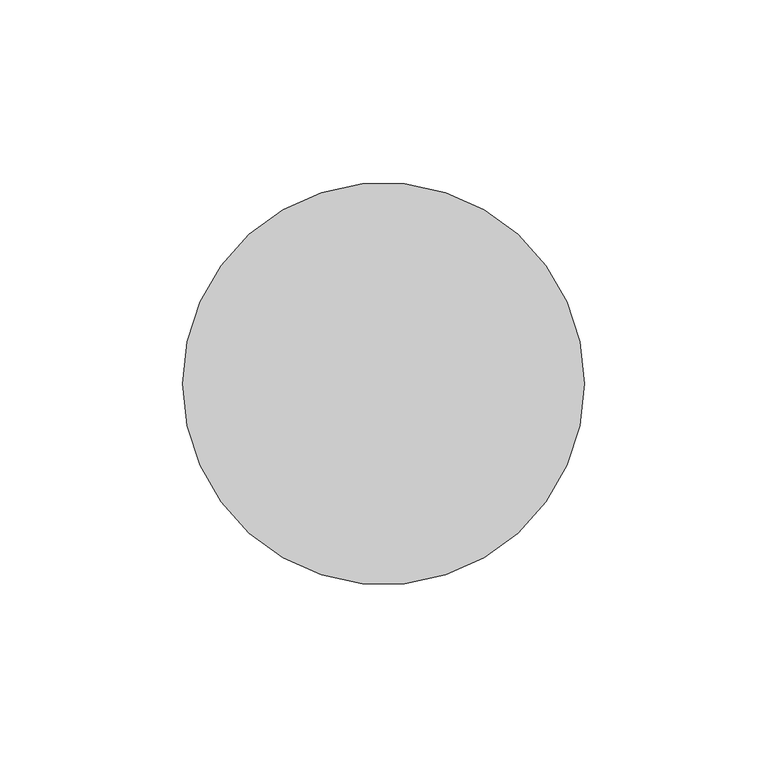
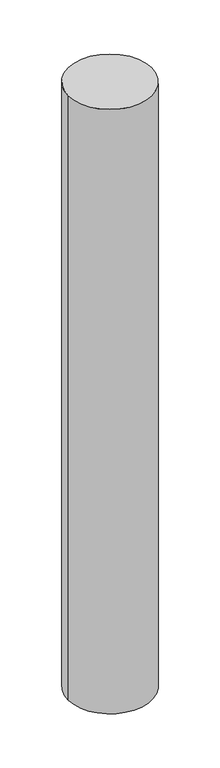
"""IFC4 building model written with IfcOpenShell, lengths in millimetres: proxy geometry, Building Materials_Other_Accessory_LEG_for ATLANTIS : LEG_Ø110."""

from ifc_helpers import new_model, si_unit, point, origin, origin_with_axes, origin_2d, place, context, project, spatial, circle_curve, trimmed, segment, composite_curve, outline, extrude, source, transform, mapped, element, save


def generic_models_ce0de363(model_context):
    return source(origin(), model_context, "Body", "SweptSolid", [
        extrude(outline(composite_curve([segment(trimmed(circle_curve(origin_2d(), 55.0), [point((-55.0, 0.0))], [point((55.0, 0.0))], False, "CARTESIAN"), True, "CONTINUOUS"), segment(trimmed(circle_curve(origin_2d(), 55.0), [point((55.0, 0.0))], [point((-55.0, 0.0))], False, "CARTESIAN"), True, "CONTINUOUS")], self_intersect=False)), origin_with_axes(), (0.0, 0.0, 1.0), 840.0),
    ])


if __name__ == "__main__":
    model = new_model("IFC4")
    model_context = context("Model", 3, world=origin())
    ifc_project = project(units=[si_unit("LENGTHUNIT", "METRE", prefix="MILLI")], contexts=[model_context])
    site = spatial("IfcSite", under=ifc_project)
    building = spatial("IfcBuilding", under=site)
    placement = place(None, origin())
    generic_models_shape = generic_models_ce0de363(model_context)
    element("IfcBuildingElementProxy", 1, Name="Building Materials_Other_Accessory_LEG_for ATLANTIS : LEG_Ø110", ObjectType="Building Materials_Other_Accessory_LEG_for ATLANTIS : LEG_Ø110", at=placement, inside=building, context=model_context, shape_type="MappedRepresentation", body=[
        mapped(generic_models_shape, transform((0.0, 0.0, 0.0), x_axis=(1.0, 0.0, 0.0), y_axis=(0.0, 1.0, 0.0), z_axis=(0.0, 0.0, 1.0))),
    ])
    save(model, "model.ifc")
